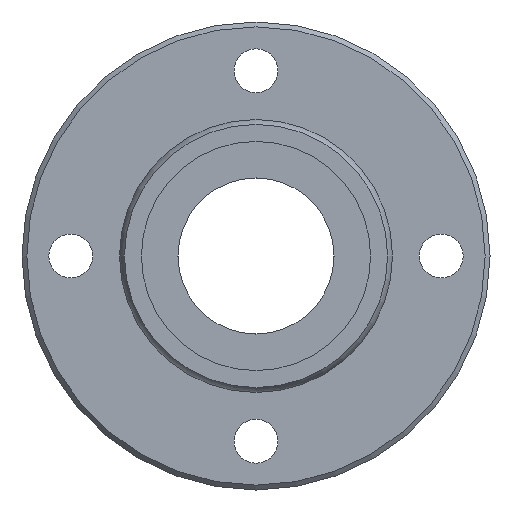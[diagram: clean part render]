
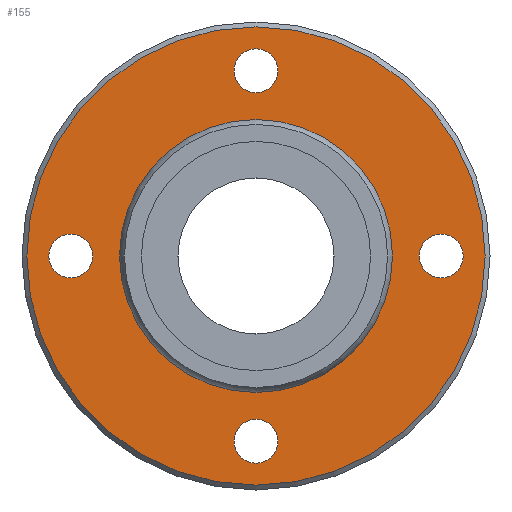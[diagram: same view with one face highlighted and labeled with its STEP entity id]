
A CAD part, left-side view. The second image highlights one B-rep face of the part: STEP entity #155.
In plain terms, the highlighted planar face has unit normal (-1, 0, 0).
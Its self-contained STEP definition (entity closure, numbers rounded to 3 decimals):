
#60=CARTESIAN_POINT('',(6.,0.,23.5));
#61=VERTEX_POINT('',#60);
#62=CARTESIAN_POINT('',(6.,0.0,0.0));
#63=DIRECTION('',(1.0,0.0,0.0));
#64=DIRECTION('',(0.0,0.0,-1.0));
#65=AXIS2_PLACEMENT_3D('',#62,#63,#64);
#66=CIRCLE('',#65,23.5);
#67=EDGE_CURVE('',#61,#61,#66,.T.);
#92=CARTESIAN_POINT('',(6.,0.0,18.887));
#93=DIRECTION('',(-1.0,0.0,0.0));
#94=DIRECTION('',(0.0,0.0,1.0));
#95=AXIS2_PLACEMENT_3D('',#92,#93,#94);
#96=PLANE('',#95);
#97=ORIENTED_EDGE('',*,*,#67,.F.);
#98=EDGE_LOOP('',(#97));
#99=FACE_OUTER_BOUND('',#98,.T.);
#100=CARTESIAN_POINT('',(6.,0.0,13.773));
#101=VERTEX_POINT('',#100);
#102=CARTESIAN_POINT('',(6.,0.0,0.0));
#103=DIRECTION('',(-1.0,0.0,0.0));
#104=DIRECTION('',(0.0,0.0,1.0));
#105=AXIS2_PLACEMENT_3D('',#102,#103,#104);
#106=CIRCLE('',#105,13.773);
#107=EDGE_CURVE('',#101,#101,#106,.T.);
#108=ORIENTED_EDGE('',*,*,#107,.F.);
#109=EDGE_LOOP('',(#108));
#110=FACE_BOUND('',#109,.T.);
#111=CARTESIAN_POINT('',(6.,16.75,0.));
#112=VERTEX_POINT('',#111);
#113=CARTESIAN_POINT('',(6.,19.0,0.));
#114=DIRECTION('',(1.0,0.0,0.0));
#115=DIRECTION('',(0.0,1.0,0.0));
#116=AXIS2_PLACEMENT_3D('',#113,#114,#115);
#117=CIRCLE('',#116,2.25);
#118=EDGE_CURVE('',#112,#112,#117,.T.);
#119=ORIENTED_EDGE('',*,*,#118,.T.);
#120=EDGE_LOOP('',(#119));
#121=FACE_BOUND('',#120,.T.);
#122=CARTESIAN_POINT('',(6.,-21.25,0.));
#123=VERTEX_POINT('',#122);
#124=CARTESIAN_POINT('',(6.,-19.0,0.0));
#125=DIRECTION('',(1.0,0.0,0.0));
#126=DIRECTION('',(0.0,1.0,0.0));
#127=AXIS2_PLACEMENT_3D('',#124,#125,#126);
#128=CIRCLE('',#127,2.25);
#129=EDGE_CURVE('',#123,#123,#128,.T.);
#130=ORIENTED_EDGE('',*,*,#129,.T.);
#131=EDGE_LOOP('',(#130));
#132=FACE_BOUND('',#131,.T.);
#133=CARTESIAN_POINT('',(6.,-2.25,19.0));
#134=VERTEX_POINT('',#133);
#135=CARTESIAN_POINT('',(6.,0.,19.0));
#136=DIRECTION('',(1.0,0.0,0.0));
#137=DIRECTION('',(0.0,1.0,0.0));
#138=AXIS2_PLACEMENT_3D('',#135,#136,#137);
#139=CIRCLE('',#138,2.25);
#140=EDGE_CURVE('',#134,#134,#139,.T.);
#141=ORIENTED_EDGE('',*,*,#140,.T.);
#142=EDGE_LOOP('',(#141));
#143=FACE_BOUND('',#142,.T.);
#144=CARTESIAN_POINT('',(6.,-2.25,-19.0));
#145=VERTEX_POINT('',#144);
#146=CARTESIAN_POINT('',(6.,0.,-19.0));
#147=DIRECTION('',(1.0,0.0,0.0));
#148=DIRECTION('',(0.0,1.0,0.0));
#149=AXIS2_PLACEMENT_3D('',#146,#147,#148);
#150=CIRCLE('',#149,2.25);
#151=EDGE_CURVE('',#145,#145,#150,.T.);
#152=ORIENTED_EDGE('',*,*,#151,.T.);
#153=EDGE_LOOP('',(#152));
#154=FACE_BOUND('',#153,.T.);
#155=ADVANCED_FACE('',(#99,#110,#121,#132,#143,#154),#96,.T.);
